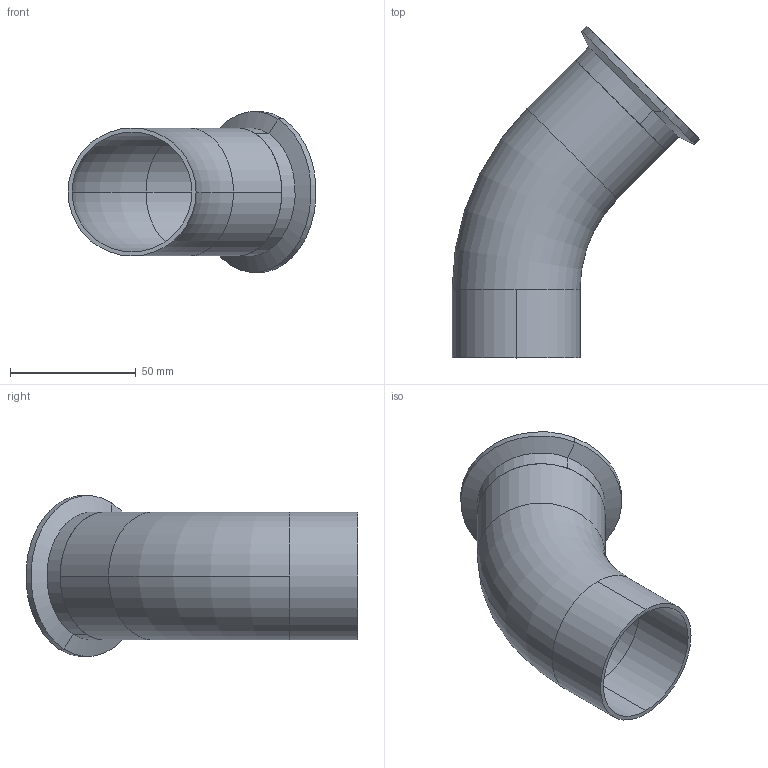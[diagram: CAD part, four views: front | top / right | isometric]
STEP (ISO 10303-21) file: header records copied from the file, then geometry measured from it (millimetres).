
FILE_DESCRIPTION (( 'STEP AP203' ), '1' );
FILE_NAME ('E2KC2.0.STEP', '2018-04-30T15:43:51', ( 'vneprd' ), ( 'Microsoft' ), 'SwSTEP 2.0', 'SolidWorks 2014', '' );
FILE_SCHEMA (( 'CONFIG_CONTROL_DESIGN' ));
Length unit declared in the file: inch
Products named in the file (1): E2KC2.0
Bounding box: 98.42 x 131.75 x 63.69 mm (x, y, z)
Volume: 36438.6 mm3; surface area: 42640 mm2
Topology: 2 solids, 2 shells, 35 faces, 74 edges, 44 vertices
Faces by surface type: cylinder 14, torus 10, cone 6, plane 5
Entity records: 1039 total; most frequent: DIRECTION 200, CARTESIAN_POINT 154, ORIENTED_EDGE 148, AXIS2_PLACEMENT_3D 90, EDGE_CURVE 74, CIRCLE 54, VERTEX_POINT 44, EDGE_LOOP 40
